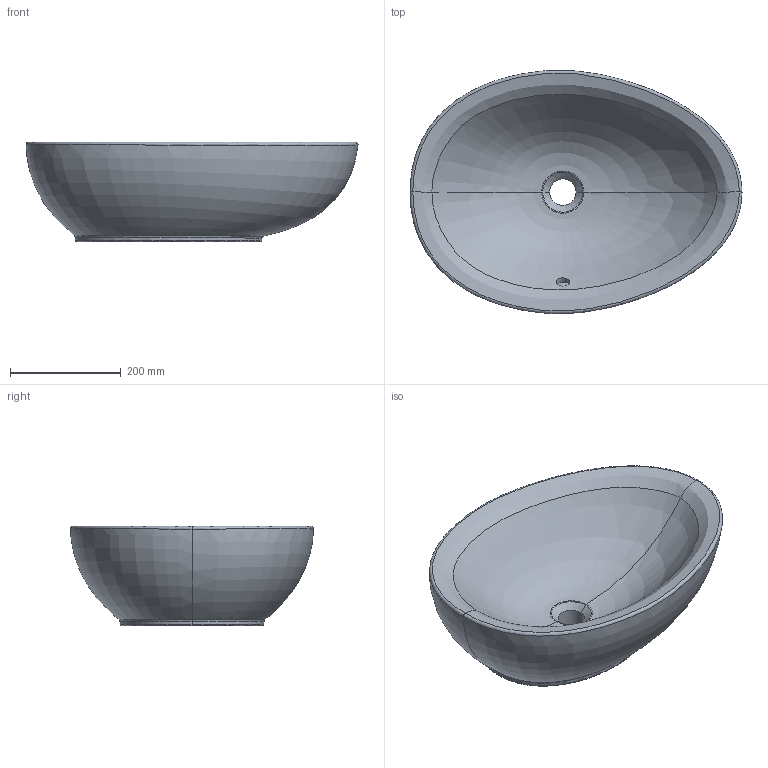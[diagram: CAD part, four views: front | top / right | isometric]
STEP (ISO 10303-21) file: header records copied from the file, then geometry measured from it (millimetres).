
FILE_DESCRIPTION(/* description */ (''),/* implementation_level */ '2;1');
FILE_NAME(/* name */ '413260_Aveo_2.0_AWT.stp',/* time_stamp */ '2019-02-15T12:45:12+01:00',/* author */ (''),/* organization */ (''),/* preprocessor_version */ 'ST-DEVELOPER v16',/* originating_system */ 'SIEMENS PLM Software NX 10.0',/* authorisation */ '');
FILE_SCHEMA (('AUTOMOTIVE_DESIGN { 1 0 10303 214 3 1 1 1 }'));
Length unit declared in the file: millimetre
Products named in the file (1): math27F85B32yeob
Bounding box: 599.75 x 439.52 x 180 mm (x, y, z)
Volume: 16279881 mm3; surface area: 635266.2 mm2
Topology: 1 solids, 1 shells, 24 faces, 65 edges, 45 vertices
Faces by surface type: bspline 17, plane 3, cone 2, cylinder 1, extrusion 1
Full cylindrical faces by diameter (mm): 47.854 x1
Entity records: 10425 total; most frequent: CARTESIAN_POINT 9947, ORIENTED_EDGE 122, EDGE_CURVE 61, B_SPLINE_CURVE_WITH_KNOTS 45, VERTEX_POINT 43, DIRECTION 37, EDGE_LOOP 30, ADVANCED_FACE 24
